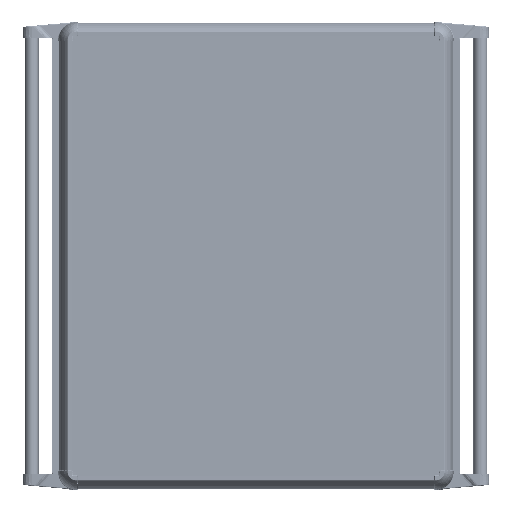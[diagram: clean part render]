
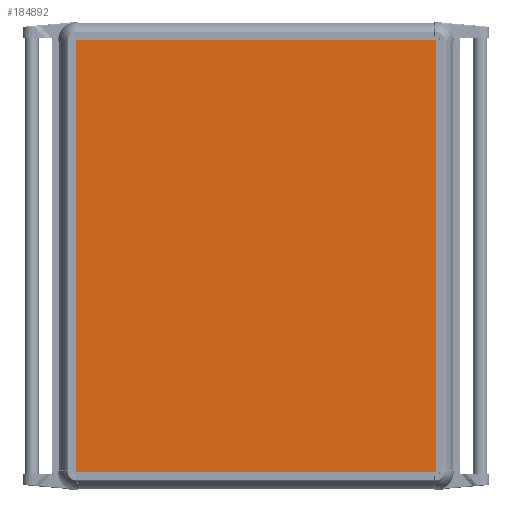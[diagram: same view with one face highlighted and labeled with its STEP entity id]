
A CAD part, top view. The second image highlights one B-rep face of the part: STEP entity #184892.
In plain terms, the highlighted planar face has unit normal (0, 0, 1).
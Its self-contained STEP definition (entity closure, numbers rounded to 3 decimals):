
#3788 = VERTEX_POINT ( 'NONE', #114188 ) ;
#40605 = DIRECTION ( 'NONE',  ( 0., 0., 1. ) ) ;
#45936 = AXIS2_PLACEMENT_3D ( 'NONE', #227324, #40605, #100962 ) ;
#50006 = VECTOR ( 'NONE', #254222, 1000. ) ;
#56515 = EDGE_CURVE ( 'NONE', #140171, #117484, #95197, .T. ) ;
#66960 = CARTESIAN_POINT ( 'NONE',  ( 250., -300., 2. ) ) ;
#72428 = VECTOR ( 'NONE', #96070, 1000. ) ;
#74997 = LINE ( 'NONE', #185961, #72428 ) ;
#75474 = VERTEX_POINT ( 'NONE', #175383 ) ;
#95197 = LINE ( 'NONE', #159762, #267072 ) ;
#96070 = DIRECTION ( 'NONE',  ( 0., -1., 0. ) ) ;
#100962 = DIRECTION ( 'NONE',  ( 1., 0., 0. ) ) ;
#105500 = ORIENTED_EDGE ( 'NONE', *, *, #141960, .T. ) ;
#114188 = CARTESIAN_POINT ( 'NONE',  ( -250., 300., 2. ) ) ;
#117484 = VERTEX_POINT ( 'NONE', #164736 ) ;
#129006 = ORIENTED_EDGE ( 'NONE', *, *, #193300, .T. ) ;
#140171 = VERTEX_POINT ( 'NONE', #66960 ) ;
#141644 = FACE_OUTER_BOUND ( 'NONE', #192495, .T. ) ;
#141960 = EDGE_CURVE ( 'NONE', #75474, #140171, #180747, .T. ) ;
#146462 = ORIENTED_EDGE ( 'NONE', *, *, #56515, .T. ) ;
#155616 = DIRECTION ( 'NONE',  ( 0., 1., 0. ) ) ;
#159762 = CARTESIAN_POINT ( 'NONE',  ( 250., 300., 2. ) ) ;
#163685 = ORIENTED_EDGE ( 'NONE', *, *, #198843, .T. ) ;
#164688 = LINE ( 'NONE', #276681, #50006 ) ;
#164736 = CARTESIAN_POINT ( 'NONE',  ( 250., 300., 2. ) ) ;
#175383 = CARTESIAN_POINT ( 'NONE',  ( -250., -300., 2. ) ) ;
#180747 = LINE ( 'NONE', #266063, #239288 ) ;
#182162 = DIRECTION ( 'NONE',  ( 1., 0., 0. ) ) ;
#184892 = ADVANCED_FACE ( 'NONE', ( #141644 ), #206368, .T. ) ;
#185961 = CARTESIAN_POINT ( 'NONE',  ( -250., 300., 2. ) ) ;
#192495 = EDGE_LOOP ( 'NONE', ( #146462, #163685, #129006, #105500 ) ) ;
#193300 = EDGE_CURVE ( 'NONE', #3788, #75474, #74997, .T. ) ;
#198843 = EDGE_CURVE ( 'NONE', #117484, #3788, #164688, .T. ) ;
#206368 = PLANE ( 'NONE',  #45936 ) ;
#227324 = CARTESIAN_POINT ( 'NONE',  ( 0., 0., 2. ) ) ;
#239288 = VECTOR ( 'NONE', #182162, 1000. ) ;
#254222 = DIRECTION ( 'NONE',  ( -1., 0., 0. ) ) ;
#266063 = CARTESIAN_POINT ( 'NONE',  ( -250., -300., 2. ) ) ;
#267072 = VECTOR ( 'NONE', #155616, 1000. ) ;
#276681 = CARTESIAN_POINT ( 'NONE',  ( -250., 300., 2. ) ) ;
